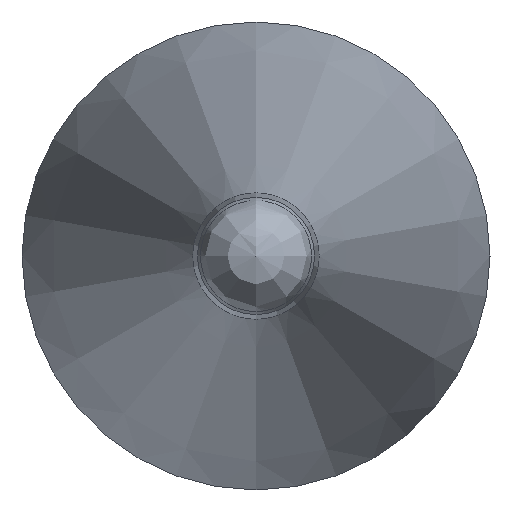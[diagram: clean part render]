
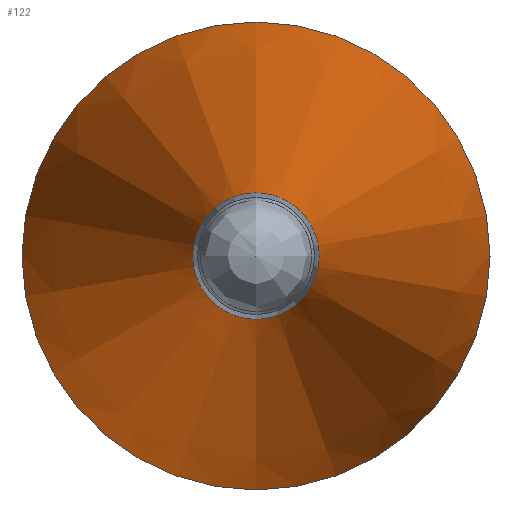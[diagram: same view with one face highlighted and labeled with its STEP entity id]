
A CAD part, left-side view. The second image highlights one B-rep face of the part: STEP entity #122.
In plain terms, the highlighted conical face has half-angle 12 degrees and reference radius 2 mm.
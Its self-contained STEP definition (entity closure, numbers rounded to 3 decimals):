
#98=CONICAL_SURFACE('',#197,2.,12.);
#107=FACE_BOUND('',#136,.T.);
#108=FACE_BOUND('',#137,.T.);
#122=ADVANCED_FACE('',(#107,#108),#98,.T.);
#136=EDGE_LOOP('',(#152));
#137=EDGE_LOOP('',(#153));
#152=ORIENTED_EDGE('',*,*,#175,.F.);
#153=ORIENTED_EDGE('',*,*,#176,.T.);
#166=VERTEX_POINT('',#249);
#167=VERTEX_POINT('',#252);
#175=EDGE_CURVE('',#166,#166,#183,.T.);
#176=EDGE_CURVE('',#167,#167,#184,.T.);
#183=CIRCLE('',#194,0.54);
#184=CIRCLE('',#196,2.);
#194=AXIS2_PLACEMENT_3D('',#248,#217,#218);
#196=AXIS2_PLACEMENT_3D('',#251,#221,#222);
#197=AXIS2_PLACEMENT_3D('',#253,#223,#224);
#217=DIRECTION('',(-1.,0.,0.));
#218=DIRECTION('',(0.,0.,1.));
#221=DIRECTION('',(-1.,0.,0.));
#222=DIRECTION('',(0.,0.,1.));
#223=DIRECTION('',(1.,0.,0.));
#224=DIRECTION('',(0.,0.,-1.));
#248=CARTESIAN_POINT('',(7903.912,6103.288,0.));
#249=CARTESIAN_POINT('',(7903.912,6103.288,0.54));
#251=CARTESIAN_POINT('',(7910.782,6103.288,0.));
#252=CARTESIAN_POINT('',(7910.782,6103.288,2.));
#253=CARTESIAN_POINT('',(7910.782,6103.288,0.));
